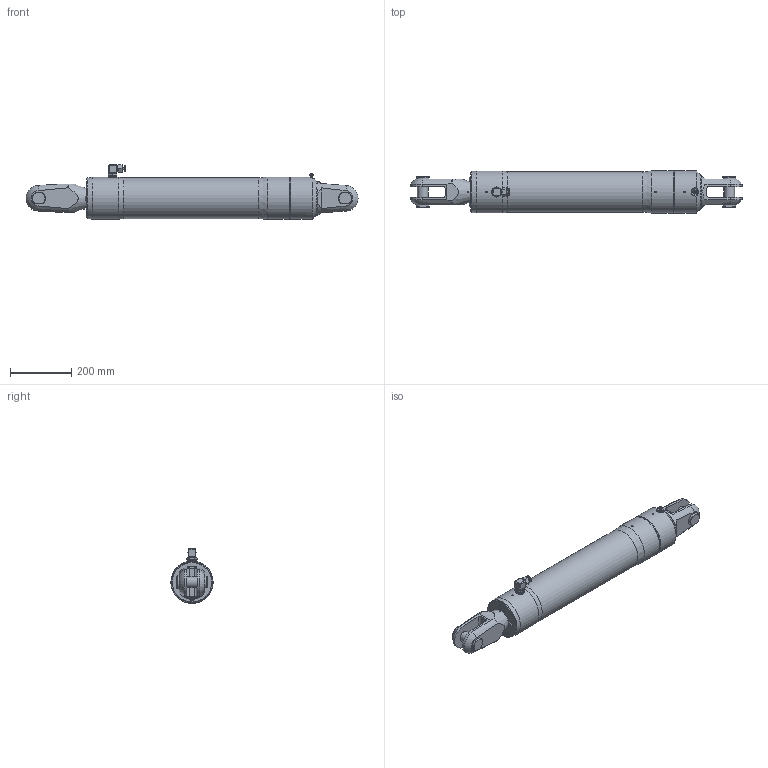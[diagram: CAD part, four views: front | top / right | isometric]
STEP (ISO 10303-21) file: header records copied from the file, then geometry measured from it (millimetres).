
FILE_DESCRIPTION(/* description */ (''),/* implementation_level */ '2;1');
FILE_NAME(/* name */ 'Q:\AA BRAND HYDRAULICS\HYDRAULICS FAMILY DIRECTORY\HYDRAULICS\CYLINDERS\RAMS\STAINLESS - STANDARD SINGLE ACTING (-0006 To -0260)\RSS-0091-S0425-NP-71\RSS-0091-S0425-NP-71 (Closed).stp',/* time_stamp */ '2018-02-07T17:06:00+00:00',/* author */ ('Lorena'),/* organization */ (''),/* preprocessor_version */ 'ST-DEVELOPER v17',/* originating_system */ 'Autodesk Inventor 2018',/* authorisation */ '');
FILE_SCHEMA (('AUTOMOTIVE_DESIGN { 1 0 10303 214 3 1 1 }'));
Length unit declared in the file: millimetre
Products named in the file (1): RSS-0091-S0425-NP-71 (Closed)
Bounding box: 1085.78 x 138.4 x 179.3 mm (x, y, z)
Volume: 12325507.8 mm3; surface area: 486687.7 mm2
Topology: 2 solids, 6 shells, 1793 faces, 4819 edges, 3185 vertices
Faces by surface type: plane 1016, bspline 574, cone 113, cylinder 82, torus 4, sphere 4
Full cylindrical faces by diameter (mm): 4 x1, 5 x3, 7 x1, 9 x1, 9.9 x1, 10 x4, 11 x2, 11.1 x1, 18.9 x1, 19 x2, 19.11 x1, 19.9 x1, 20 x3, 20.9 x2, 22 x2, 27.8 x3, 30 x1, 34.93 x2, 35 x1, 37 x1, 43.663 x2, 131.8 x1, 133.4 x1, 136.4 x1, 137.4 x1, 138.4 x2
Entity records: 63710 total; most frequent: CARTESIAN_POINT 21224, ORIENTED_EDGE 9622, DIRECTION 6341, EDGE_CURVE 4811, VERTEX_POINT 3186, LINE 2969, VECTOR 2969, EDGE_LOOP 1961
